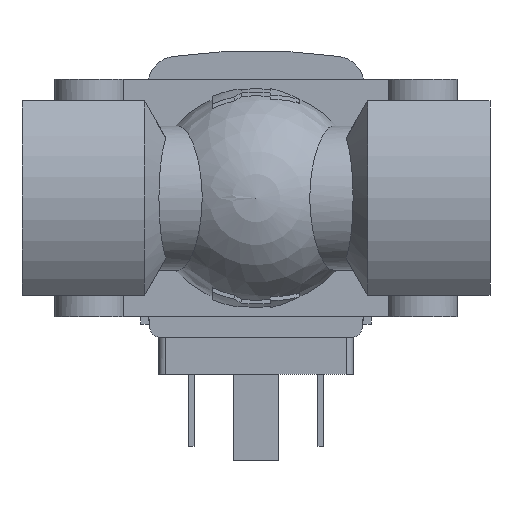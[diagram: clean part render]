
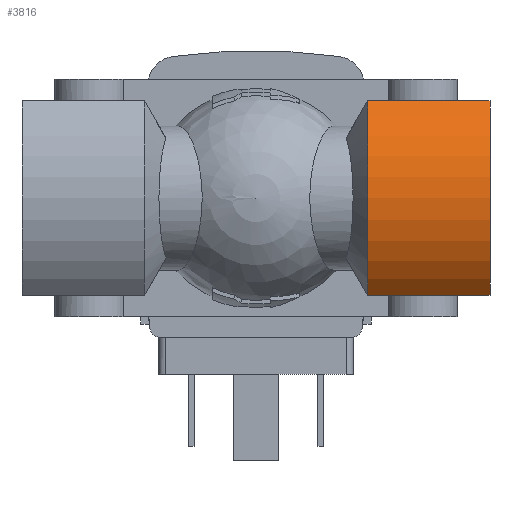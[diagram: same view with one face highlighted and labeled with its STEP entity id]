
A CAD part, front view. The second image highlights one B-rep face of the part: STEP entity #3816.
In plain terms, the highlighted cylindrical face has radius 19 mm (diameter 38 mm), a partial arc.
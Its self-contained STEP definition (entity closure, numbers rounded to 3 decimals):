
#83=CYLINDRICAL_SURFACE('',#4873,19.);
#268=LINE('',#6800,#568);
#270=LINE('',#6804,#570);
#568=VECTOR('',#5556,1000.);
#570=VECTOR('',#5560,1000.);
#1102=ORIENTED_EDGE('',*,*,#2057,.T.);
#1103=ORIENTED_EDGE('',*,*,#2048,.F.);
#1104=ORIENTED_EDGE('',*,*,#2058,.F.);
#1105=ORIENTED_EDGE('',*,*,#2046,.T.);
#2046=EDGE_CURVE('',#2537,#2536,#268,.T.);
#2048=EDGE_CURVE('',#2538,#2539,#270,.T.);
#2057=EDGE_CURVE('',#2536,#2539,#2861,.T.);
#2058=EDGE_CURVE('',#2537,#2538,#2862,.T.);
#2536=VERTEX_POINT('',#6799);
#2537=VERTEX_POINT('',#6801);
#2538=VERTEX_POINT('',#6805);
#2539=VERTEX_POINT('',#6806);
#2861=CIRCLE('',#4874,19.);
#2862=CIRCLE('',#4875,19.);
#3044=EDGE_LOOP('',(#1102,#1103,#1104,#1105));
#3356=FACE_BOUND('',#3044,.T.);
#3816=ADVANCED_FACE('',(#3356),#83,.T.);
#4873=AXIS2_PLACEMENT_3D('',#6827,#5574,#5575);
#4874=AXIS2_PLACEMENT_3D('',#6828,#5576,#5577);
#4875=AXIS2_PLACEMENT_3D('',#6829,#5578,#5579);
#5556=DIRECTION('',(-1.,0.,0.));
#5560=DIRECTION('',(-1.,0.,0.));
#5574=DIRECTION('',(-1.,0.,0.));
#5575=DIRECTION('',(0.,0.,1.));
#5576=DIRECTION('',(1.,0.,0.));
#5577=DIRECTION('',(0.,0.,-1.));
#5578=DIRECTION('',(1.,0.,0.));
#5579=DIRECTION('',(0.,0.,-1.));
#6799=CARTESIAN_POINT('',(15.5,-7.87,13.5));
#6800=CARTESIAN_POINT('',(32.5,-7.87,13.5));
#6801=CARTESIAN_POINT('',(32.5,-7.87,13.5));
#6804=CARTESIAN_POINT('',(32.5,-7.87,-13.5));
#6805=CARTESIAN_POINT('',(32.5,-7.87,-13.5));
#6806=CARTESIAN_POINT('',(15.5,-7.87,-13.5));
#6827=CARTESIAN_POINT('',(32.5,5.5,0.));
#6828=CARTESIAN_POINT('',(15.5,5.5,0.));
#6829=CARTESIAN_POINT('',(32.5,5.5,0.));
